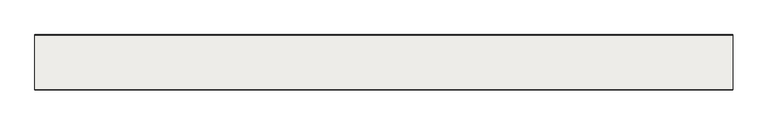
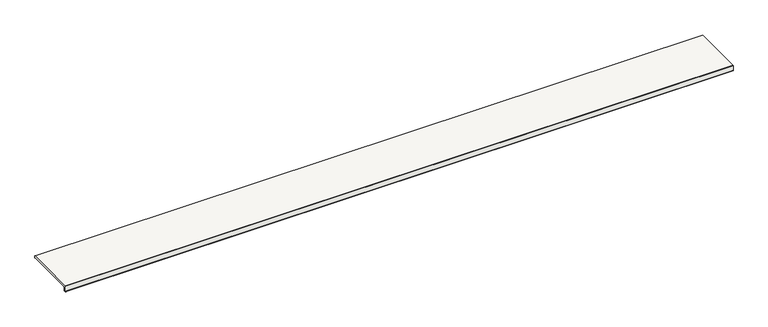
"""IFC4 building model written with IfcOpenShell, lengths in millimetres: slab geometry, ROSA GRES_L62 : Pieza L62_Pietro_White_Anti-Slip."""

from ifc_helpers import new_model, si_unit, point, frame, frame_2d, origin, place, context, project, spatial, polyline, circle_curve, trimmed, segment, composite_curve, outline, extrude, source, transform, mapped, element, save


def slab_8c3d5204(model_context):
    return source(origin(), model_context, "Body", "SweptSolid", [
        extrude(outline(composite_curve([segment(polyline([(12.1001991, -37.0), (9.4054777, -37.0)]), True, "CONTINUOUS"), segment(trimmed(circle_curve(frame_2d((7.4142134, -37.0)), 1.9912643), [point((9.4054777, -37.0))], [point((5.422949, -37.0))], True, "CARTESIAN"), True, "CONTINUOUS"), segment(polyline([(5.422949, -37.0), (2.5, -37.0)]), True, "CONTINUOUS"), segment(trimmed(circle_curve(frame_2d((2.5, -34.5)), 2.5), [point((2.5, -37.0))], [point((0.0, -34.5))], False, "CARTESIAN"), True, "CONTINUOUS"), segment(polyline([(0.0, -34.5), (0.0, -2.5), (2.5, 0.0), (315.5, 0.0), (317.0, -2.5), (317.0, -12.4648352)]), True, "CONTINUOUS"), segment(trimmed(circle_curve(frame_2d((315.5234432, -12.4648352)), 1.4765568), [point((317.0, -12.4648352))], [point((315.5234432, -13.9413919))], False, "CARTESIAN"), True, "CONTINUOUS"), segment(polyline([(315.5234432, -13.9413919), (16.6422322, -13.9413919)]), True, "CONTINUOUS"), segment(trimmed(circle_curve(frame_2d((16.6422322, -16.5836242)), 2.6422322), [point((16.6422322, -13.9413919))], [point((14.0, -16.5836242))], True, "CARTESIAN"), True, "CONTINUOUS"), segment(polyline([(14.0, -16.5836242), (14.0, -35.1001991)]), True, "CONTINUOUS"), segment(trimmed(circle_curve(frame_2d((12.1001991, -35.1001991)), 1.8998009), [point((14.0, -35.1001991))], [point((12.1001991, -37.0))], False, "CARTESIAN"), True, "CONTINUOUS")], self_intersect=False)), frame((0.0, 0.0, 0.0), z_axis=(1.0, 0.0, 0.0), x_axis=(0.0, 1.0, 0.0)), (0.0, 0.0, 1.0), 4000.0),
    ])


if __name__ == "__main__":
    model = new_model("IFC4")
    model_context = context("Model", 3, world=origin())
    ifc_project = project(units=[si_unit("LENGTHUNIT", "METRE", prefix="MILLI")], contexts=[model_context])
    site = spatial("IfcSite", under=ifc_project)
    building = spatial("IfcBuilding", under=site)
    placement = place(None, origin())
    slab_shape = slab_8c3d5204(model_context)
    element("IfcSlab", 1, ObjectType="ROSA GRES_L62 : Pieza L62_Pietro_White_Anti-Slip", at=placement, inside=building, context=model_context, shape_type="MappedRepresentation", body=[
        mapped(slab_shape, transform((0.0, 0.0, 0.0), x_axis=(1.0, 0.0, 0.0), y_axis=(0.0, 1.0, 0.0), z_axis=(0.0, 0.0, 1.0))),
    ])
    save(model, "model.ifc")
